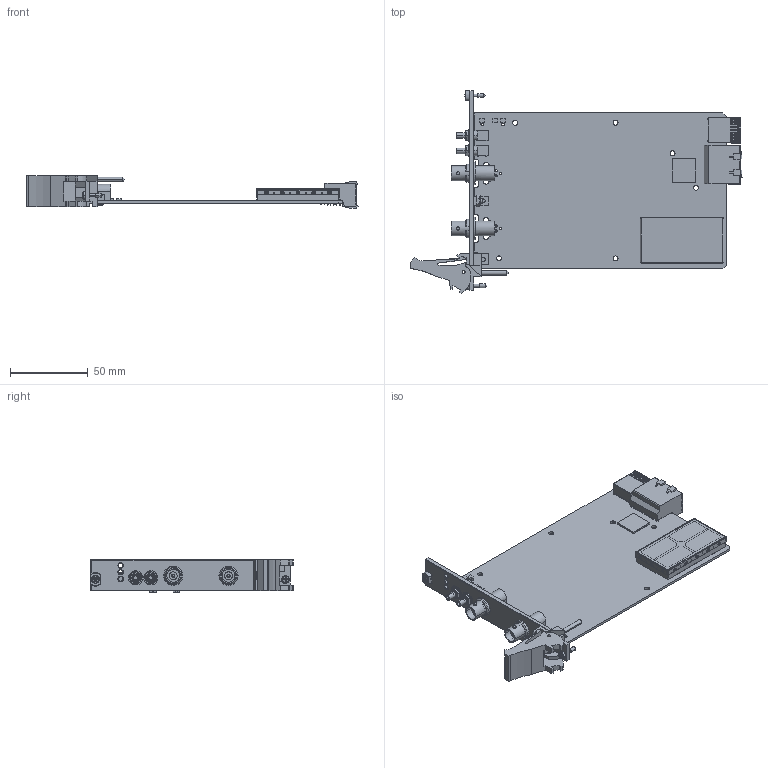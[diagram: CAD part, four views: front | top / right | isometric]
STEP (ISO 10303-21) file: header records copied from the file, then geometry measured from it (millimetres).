
FILE_DESCRIPTION((''),'2;1');
FILE_NAME('CU_PXIE-4463-BNC','2015-03-17T',('dkendric'),(''),'PRO/ENGINEER BY PARAMETRIC TECHNOLOGY CORPORATION, 2014000','PRO/ENGINEER BY PARAMETRIC TECHNOLOGY CORPORATION, 2014000','');
FILE_SCHEMA(('CONFIG_CONTROL_DESIGN'));
Products named in the file (1): CU_PXIE-4463-BNC
Bounding box: 213.82 x 130.5 x 20.78 mm (x, y, z)
Volume: 55999.8 mm3; surface area: 61270.9 mm2
Topology: 2 solids, 3 shells, 4286 faces, 11607 edges, 7248 vertices
Faces by surface type: plane 2881, sphere 656, cylinder 535, bspline 152, torus 36, cone 26
Entity records: 139985 total; most frequent: CARTESIAN_POINT 35310, ORIENTED_EDGE 21734, DIRECTION 20881, EDGE_CURVE 10867, VERTEX_POINT 7248, AXIS2_PLACEMENT_3D 6993, VECTOR 6895, LINE 6895
